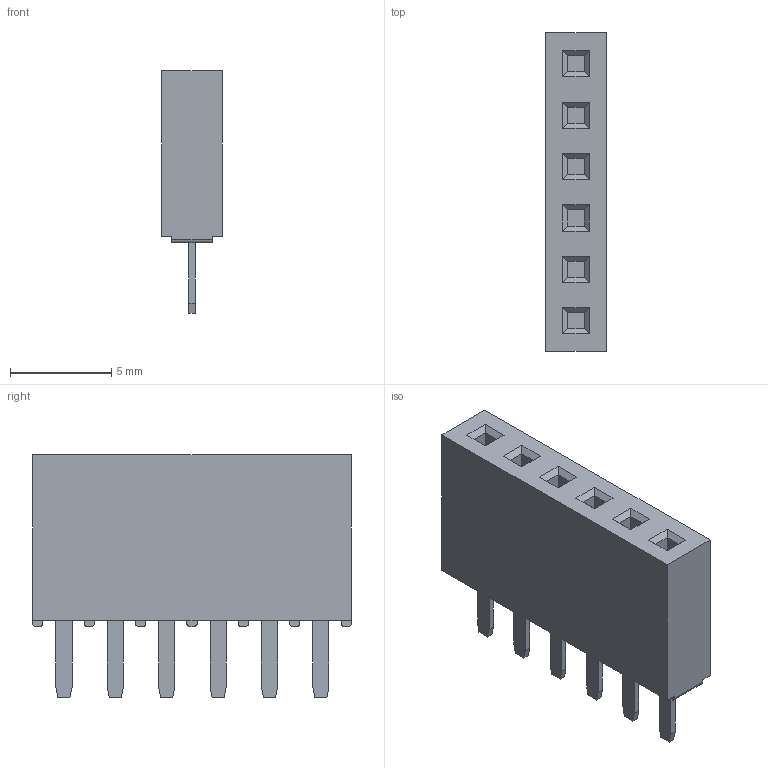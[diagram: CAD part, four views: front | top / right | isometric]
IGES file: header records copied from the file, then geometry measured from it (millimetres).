
Global section: file name: N:\GOLF_VI_2_54mm_UGII\960XXX-6X0X-XX (TS-2187)\960106-6303-XX.igs; native system: NX V3.0; preprocessor: UGS NX IGES V4.0; date: 20070618.075625; units: millimetre
Bounding box: 3 x 15.74 x 12 mm (x, y, z)
Surface area: 524.6 mm2 (no closed solid volume)
Topology: 0 solids, 0 shells, 149 faces, 732 edges, 732 vertices
Faces by surface type: bspline 149
